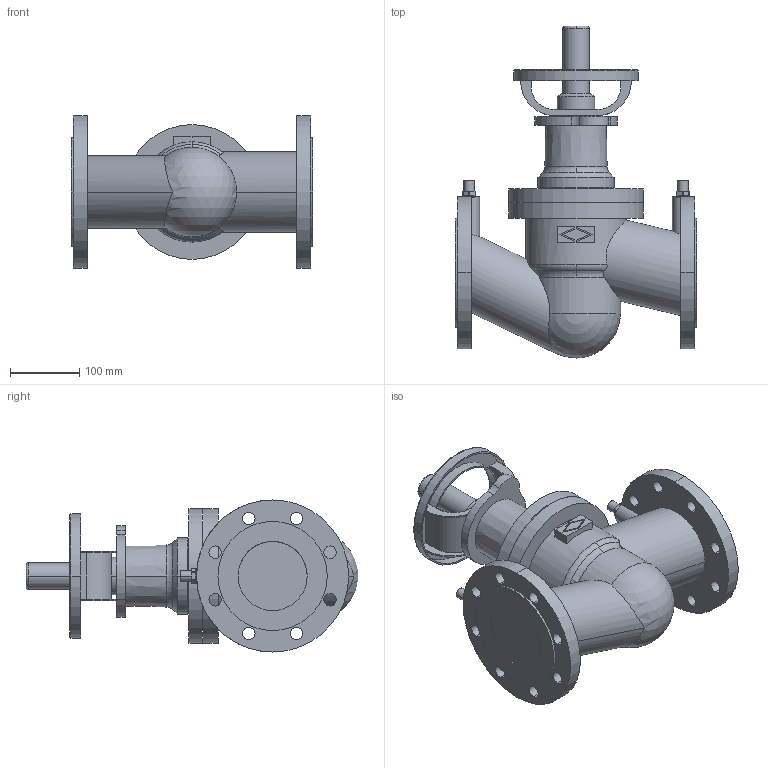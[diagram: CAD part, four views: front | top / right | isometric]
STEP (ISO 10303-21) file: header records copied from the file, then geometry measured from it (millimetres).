
FILE_DESCRIPTION( ( '' ), '1' );
FILE_NAME( 'F:/DE-SHS/TB/OR/04-Sonstiges/daten/files_3d/12020/c000000217.stp', '2015-04-28T06:36:40', ( '' ), ( '' ), ' ', ' ', ' ' );
FILE_SCHEMA( ( 'CONFIG_CONTROL_DESIGN' ) );
Length unit declared in the file: millimetre
Products named in the file (1): 1
Bounding box: 350 x 480.28 x 220 mm (x, y, z)
Volume: 8424746.3 mm3; surface area: 560649.7 mm2
Topology: 1 solids, 1 shells, 204 faces, 541 edges, 358 vertices
Faces by surface type: cylinder 111, plane 70, torus 16, cone 6, sphere 1
Entity records: 7248 total; most frequent: CARTESIAN_POINT 1864, DIRECTION 1180, ORIENTED_EDGE 1078, EDGE_CURVE 539, AXIS2_PLACEMENT_3D 468, VERTEX_POINT 358, EDGE_LOOP 261, CIRCLE 259
